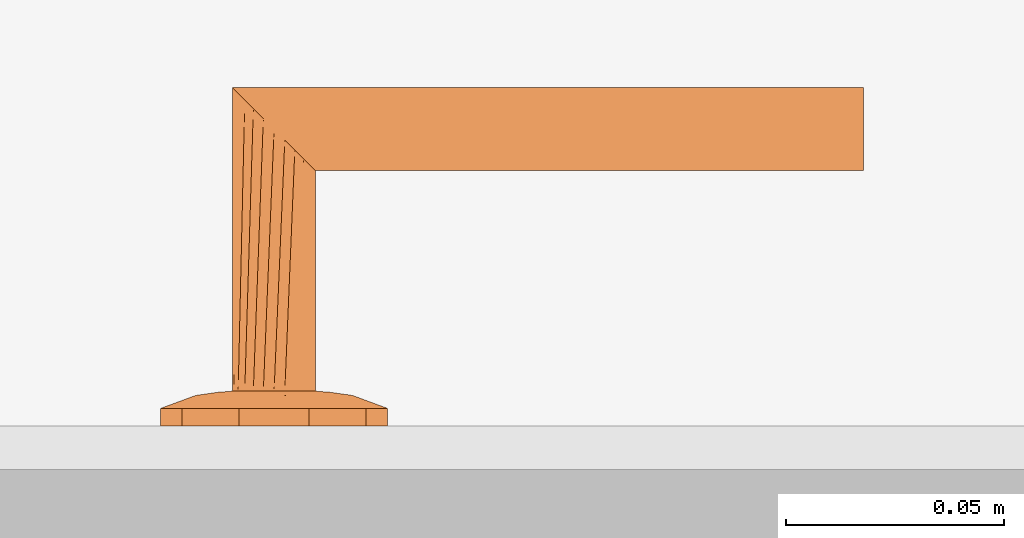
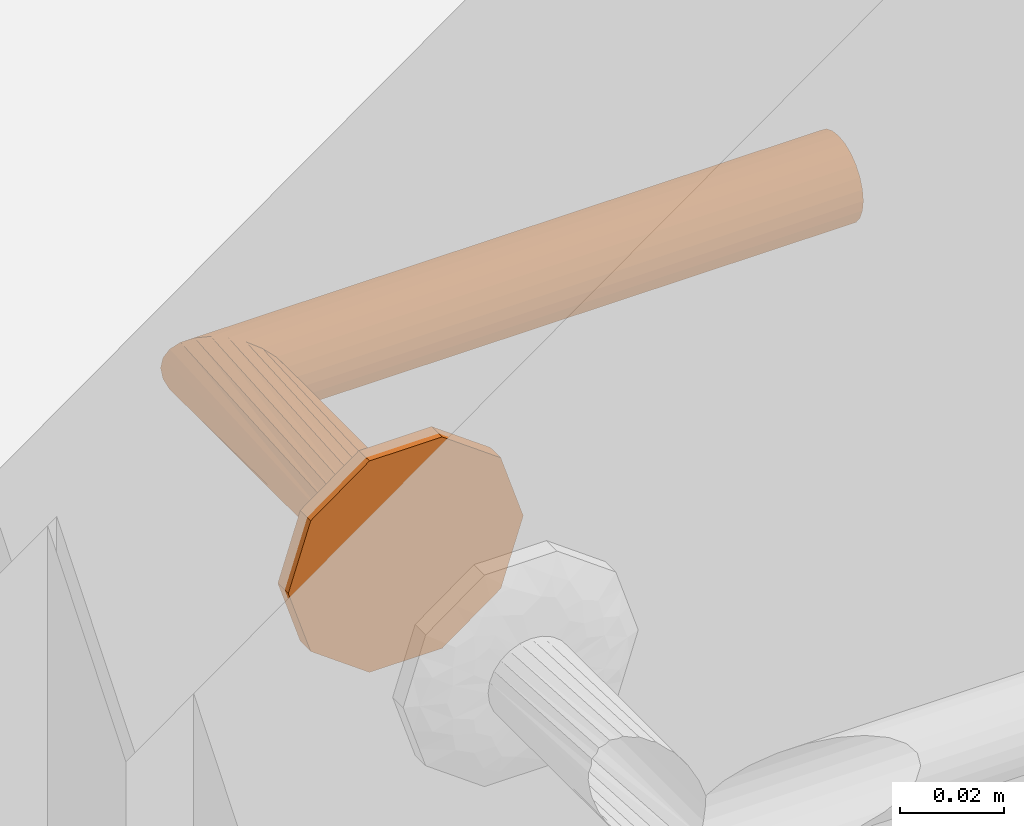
# One storey, part 34 of 55: 1 proxy.
"""IFC2X3 building model written with IfcOpenShell, lengths in millimetres."""

from ifc_helpers import new_model, entity, si_unit, converted_unit, direction, frame, origin, place, context, subcontext, project, spatial, faceted_brep, source, transform, mapped, material, type_object, type_shapes, element, save


model = new_model("IFC2X3")

# Units and contexts
model_context = context("Model", 3, precision=0.01, world=origin(), true_north=direction((6.123233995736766e-17, 1.0)))
plan_context = context("Plan", 3, precision=0.01, world=origin(), true_north=direction((6.123233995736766e-17, 1.0)))
body_context = subcontext(model_context, "Body", "Model", "MODEL_VIEW")
ifc_project = project(units=[si_unit("LENGTHUNIT", "METRE", prefix="MILLI"), converted_unit("PLANEANGLEUNIT", "DEGREE", entity("IfcPlaneAngleMeasure", 0.017453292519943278), si_unit("PLANEANGLEUNIT", "RADIAN"), dimensions=[0, 0, 0, 0, 0, 0, 0]), si_unit("AREAUNIT", "SQUARE_METRE")], contexts=[model_context, plan_context])

# Site, building, storey, space
site_placement = place(None, origin())
site = spatial("IfcSite", under=ifc_project, at=site_placement, Name="Default", CompositionType="ELEMENT")
building_placement = place(site_placement, origin())
building = spatial("IfcBuilding", under=site, at=building_placement, CompositionType="ELEMENT")
storey_placement = place(building_placement, origin())
storey = spatial("IfcBuildingStorey", under=building, at=storey_placement, Name="1K", CompositionType="ELEMENT", Elevation=0.0)
space_placement = place(storey_placement, origin())
space = spatial("IfcSpace", under=storey, at=space_placement, Name="1-0.4", CompositionType="ELEMENT", InteriorOrExteriorSpace="INTERNAL")

# Proxy
ifc_material = material(Name="<Unnamed>")
building_element_proxy_type = type_object("IfcBuildingElementProxyType", Name="Door-handle_Lever_ABLOY_INOXI_3-19ss-002_RT:Default", PredefinedType="NOTDEFINED", material=ifc_material)
shared_shape = source(origin(), body_context, "Body", "Brep", [
    faceted_brep([(0.0, 0.0, 0.0), (21.034441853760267, -15.282416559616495, 0.0), (14.534441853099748, -20.00494299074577, 0.0), (8.034441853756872, -24.72746942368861, 0.0), (0.0, -24.72746942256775, 0.0), (23.51722092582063, -7.6412082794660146, 0.0), (26.0, 0.0, 0.0), (-8.034441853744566, -24.727469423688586, 0.0), (-14.534441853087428, -20.00494299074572, 0.0), (-21.03444185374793, -15.282416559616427, 0.0), (-23.517220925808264, -7.641208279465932, 0.0), (-26.0, 0.0, 0.0), (-23.517220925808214, 7.641208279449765, 0.0), (23.517220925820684, 7.641208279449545, 0.0), (21.034441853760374, 15.282416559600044, 0.0), (14.53444185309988, 20.00494299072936, 0.0), (8.034441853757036, 24.72746942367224, 0.0), (-21.034441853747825, 15.282416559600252, 0.0), (-14.53444185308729, 20.004942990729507, 0.0), (-8.0344418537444, 24.72746942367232, 0.0), (0.0, 24.72746942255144, 0.0), (0.0, 0.0, 8.0), (4.7500000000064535, -8.227241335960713, 8.0), (5.937500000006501, -6.170431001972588, 8.0), (7.125000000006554, -4.113620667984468, 8.0), (8.312500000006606, -2.0568103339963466, 8.0), (9.500000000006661, 0.0, 8.0), (8.312500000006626, 2.056810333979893, 8.0), (2.3750000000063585, -8.227241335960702, 8.0), (0.0, -8.227241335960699, 8.0), (-2.3749999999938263, -8.227241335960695, 8.0), (-4.749999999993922, -8.227241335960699, 8.0), (-5.937499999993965, -6.170431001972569, 8.0), (-7.124999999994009, -4.113620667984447, 8.0), (-8.312499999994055, -2.056810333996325, 8.0), (-9.499999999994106, 0.0, 8.0), (7.125000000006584, 4.113620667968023, 8.0), (5.937500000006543, 6.170431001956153, 8.0), (4.750000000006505, 8.227241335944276, 8.0), (2.3750000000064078, 8.22724133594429, 8.0), (-8.31249999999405, 2.0568103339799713, 8.0), (-7.12499999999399, 4.113620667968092, 8.0), (-5.9374999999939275, 6.170431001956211, 8.0), (-4.74999999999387, 8.227241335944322, 8.0), (0.0, 8.227241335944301, 8.0), (-2.374999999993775, 8.227241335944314, 8.0), (-22.488765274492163, -10.806469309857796, 4.030771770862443), (-16.663919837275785, -7.932665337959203, 6.877259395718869), (-20.643071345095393, -6.292822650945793, 5.929480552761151), (-12.50457926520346, -5.179566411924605, 7.774932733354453), (-16.764060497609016, -3.820257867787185, 7.1747985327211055), (-9.071726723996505, -10.311606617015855, 7.7520782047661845), (-11.963426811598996, -8.625290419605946, 7.618343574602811), (-11.979136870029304, -13.678312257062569, 6.945778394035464), (5.7585542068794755, -20.96753300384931, 5.871476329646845), (0.0, -24.72746942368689, 4.030771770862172), (8.03444185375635, -24.727469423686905, 4.030771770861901), (16.66391982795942, -7.932665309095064, 6.877259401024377), (22.488765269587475, -10.806469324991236, 4.03077177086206), (20.64307133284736, -6.29282258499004, 5.929480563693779), (14.534441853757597, -20.004942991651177, 4.030771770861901), (9.499431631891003, -18.64368355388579, 6.154325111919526), (-15.783149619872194, -11.991003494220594, 6.50080018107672), (-21.034441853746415, -15.282416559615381, 4.030771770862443), (-14.53444185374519, -20.00494299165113, 4.030771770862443), (-23.012042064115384, 0.0, 5.135401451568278), (-23.943088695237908, -6.330522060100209, 4.030771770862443), (11.96342678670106, -8.62529049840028, 7.618343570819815), (12.504579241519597, -5.179566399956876, 7.774932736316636), (16.764060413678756, -3.8202578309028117, 7.17479855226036), (15.783149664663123, -11.991003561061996, 6.50080015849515), (17.985351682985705, 0.0, 6.993737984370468), (23.012042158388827, 0.0, 5.135401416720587), (8.661516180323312, -10.478936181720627, 7.768126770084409), (-8.03444185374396, -24.727469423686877, 4.030771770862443), (-3.3573143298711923, -21.197247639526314, 5.971427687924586), (-9.941915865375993, -17.061976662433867, 6.522757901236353), (-5.973257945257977, -16.430139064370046, 7.110979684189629), (-7.711266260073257, -12.760344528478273, 7.594456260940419), (11.979136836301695, -13.678312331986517, 6.945778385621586), (7.511307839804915, -13.358932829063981, 7.529187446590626), (5.953298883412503, -16.50608604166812, 7.096344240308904), (-1.5654593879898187, -15.307443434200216, 7.519134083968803), (-7.784980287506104, -20.476295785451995, 5.812837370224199), (2.8135289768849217, -17.76392260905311, 6.993737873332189), (-17.98535168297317, 0.0, 6.993737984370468), (-26.0, 0.0, 4.030771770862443), (-23.51722092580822, -7.641208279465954, 4.030771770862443), (23.943088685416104, -6.33052209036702, 4.030771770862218), (24.308823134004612, -5.204907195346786, 4.030771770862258), (26.0, 0.0, 4.030771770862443), (21.03444185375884, -15.282416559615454, 4.030771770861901), (22.617646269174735, -10.40981439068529, 4.030771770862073), (22.488765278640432, 10.806469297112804, 4.030771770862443), (16.66391984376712, 7.932665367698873, 6.877259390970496), (20.643071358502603, 6.292822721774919, 5.929480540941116), (12.504579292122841, 5.179566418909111, 7.774932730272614), (16.764060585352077, 3.8202579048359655, 7.174798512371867), (9.07172672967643, 10.31160659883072, 7.752078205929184), (11.963426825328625, 8.62529034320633, 7.618343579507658), (11.979136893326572, 13.67831220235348, 6.9457784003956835), (-5.758554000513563, 20.96753314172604, 5.8714763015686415), (0.0, 24.72746942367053, 4.030771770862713), (-8.03444185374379, 24.72746942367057, 4.030771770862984), (-16.663919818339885, 7.932665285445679, 6.877259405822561), (-22.48876526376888, 10.806469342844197, 4.030771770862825), (-20.643071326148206, 6.2928225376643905, 5.929480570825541), (-14.534441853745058, 20.004942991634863, 4.030771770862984), (-9.499431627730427, 18.643683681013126, 6.154325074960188), (15.783149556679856, 11.991003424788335, 6.5008002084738), (21.03444185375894, 15.282416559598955, 4.030771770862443), (14.534441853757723, 20.004942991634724, 4.030771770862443), (23.943088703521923, 6.330522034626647, 4.030771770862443), (-11.96342675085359, 8.625290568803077, 7.618343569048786), (-12.504579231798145, 5.179566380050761, 7.77493273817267), (-16.764060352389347, 3.820257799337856, 7.174798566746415), (-15.78314967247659, 11.991003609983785, 6.500800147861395), (-8.661516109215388, 10.478936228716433, 7.768126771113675), (8.034441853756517, 24.727469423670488, 4.030771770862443), (3.3573144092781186, 21.197247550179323, 5.971427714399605), (9.941915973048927, 17.061976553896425, 6.522757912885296), (5.9732581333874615, 16.430139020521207, 7.110979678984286), (7.711266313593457, 12.760344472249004, 7.5944562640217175), (-11.979136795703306, 13.678312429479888, 6.945778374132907), (-7.511307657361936, 13.358932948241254, 7.5291874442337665), (-5.9532988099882, 16.50608628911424, 7.096344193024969), (1.5654596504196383, 15.3074431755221, 7.519134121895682), (7.784980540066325, 20.476295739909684, 5.812837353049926), (-2.81352881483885, 17.76392263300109, 6.993737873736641), (23.51722092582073, 7.6412082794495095, 4.030771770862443), (-23.94308867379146, 6.330522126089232, 4.030771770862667), (-24.308823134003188, 5.20490719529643, 4.030771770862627), (-21.034441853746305, 15.282416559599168, 4.030771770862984), (-22.617646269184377, 10.409814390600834, 4.0307717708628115)], [[[0, 1, 2]], [[0, 2, 3]], [[0, 3, 4]], [[0, 5, 1]], [[0, 6, 5]], [[0, 4, 7]], [[0, 7, 8]], [[0, 8, 9]], [[0, 9, 10]], [[0, 10, 11]], [[0, 11, 12]], [[0, 13, 6]], [[0, 14, 13]], [[0, 15, 14]], [[0, 16, 15]], [[0, 12, 17]], [[0, 17, 18]], [[0, 18, 19]], [[0, 19, 20]], [[0, 20, 16]], [[21, 22, 23]], [[21, 23, 24]], [[21, 24, 25]], [[21, 25, 26]], [[21, 26, 27]], [[21, 28, 22]], [[21, 29, 28]], [[21, 30, 29]], [[21, 31, 30]], [[21, 32, 31]], [[21, 33, 32]], [[21, 34, 33]], [[21, 35, 34]], [[21, 27, 36]], [[21, 36, 37]], [[21, 37, 38]], [[21, 38, 39]], [[21, 40, 35]], [[21, 41, 40]], [[21, 42, 41]], [[21, 43, 42]], [[21, 39, 44]], [[21, 44, 45]], [[21, 45, 43]], [[46, 47, 48]], [[47, 49, 50]], [[49, 33, 34]], [[51, 52, 53]], [[49, 52, 33]], [[48, 47, 50]], [[54, 55, 56]], [[57, 58, 59]], [[56, 60, 61]], [[62, 63, 64]], [[65, 66, 48]], [[67, 57, 68]], [[68, 69, 25]], [[57, 67, 70]], [[69, 26, 25]], [[62, 53, 52]], [[71, 69, 72]], [[67, 23, 73]], [[74, 55, 75]], [[76, 77, 78]], [[79, 60, 70]], [[69, 59, 72]], [[80, 81, 61]], [[77, 30, 78]], [[82, 30, 77]], [[28, 80, 22]], [[77, 83, 75]], [[75, 82, 77]], [[55, 84, 75]], [[85, 50, 35]], [[24, 68, 25]], [[82, 84, 29]], [[84, 82, 75]], [[31, 78, 30]], [[82, 29, 30]], [[34, 35, 50]], [[52, 49, 47]], [[62, 52, 47]], [[34, 50, 49]], [[53, 78, 51]], [[32, 33, 52]], [[85, 65, 50]], [[66, 65, 86]], [[67, 68, 24]], [[77, 76, 83]], [[65, 48, 50]], [[63, 62, 46]], [[48, 66, 87, 46]], [[62, 47, 46]], [[69, 68, 57]], [[80, 73, 22]], [[70, 67, 79]], [[67, 24, 23]], [[72, 88, 89, 90]], [[69, 71, 26]], [[59, 69, 57]], [[61, 60, 79]], [[62, 64, 53]], [[91, 58, 70]], [[72, 59, 88]], [[57, 70, 58]], [[59, 58, 92]], [[80, 61, 79]], [[91, 70, 60]], [[61, 81, 54]], [[73, 80, 79]], [[28, 84, 81]], [[67, 73, 79]], [[29, 84, 28]], [[22, 73, 23]], [[51, 31, 32]], [[76, 78, 53]], [[53, 64, 76]], [[83, 64, 74]], [[64, 83, 76]], [[75, 83, 74]], [[31, 51, 78]], [[52, 51, 32]], [[28, 81, 80]], [[54, 81, 84]], [[55, 54, 84]], [[61, 54, 56]], [[93, 94, 95]], [[94, 96, 97]], [[96, 36, 27]], [[98, 99, 100]], [[96, 99, 36]], [[95, 94, 97]], [[101, 102, 103]], [[104, 105, 106]], [[103, 107, 108]], [[109, 110, 111]], [[72, 112, 95]], [[113, 104, 114]], [[114, 115, 40]], [[104, 113, 116]], [[115, 35, 40]], [[109, 100, 99]], [[85, 115, 65]], [[113, 42, 117]], [[118, 102, 119]], [[120, 121, 122]], [[123, 107, 116]], [[115, 106, 65]], [[124, 125, 108]], [[121, 39, 122]], [[126, 39, 121]], [[45, 124, 43]], [[121, 127, 119]], [[119, 126, 121]], [[102, 128, 119]], [[71, 97, 26]], [[41, 114, 40]], [[126, 128, 44]], [[128, 126, 119]], [[38, 122, 39]], [[126, 44, 39]], [[27, 26, 97]], [[99, 96, 94]], [[109, 99, 94]], [[27, 97, 96]], [[100, 122, 98]], [[37, 36, 99]], [[71, 72, 97]], [[112, 72, 90]], [[113, 114, 41]], [[121, 120, 127]], [[72, 95, 97]], [[110, 109, 93]], [[95, 112, 129, 93]], [[109, 94, 93]], [[115, 114, 104]], [[124, 117, 43]], [[116, 113, 123]], [[113, 41, 42]], [[65, 130, 131, 86]], [[115, 85, 35]], [[106, 115, 104]], [[108, 107, 123]], [[109, 111, 100]], [[132, 105, 116]], [[65, 106, 130]], [[104, 116, 105]], [[106, 105, 133]], [[124, 108, 123]], [[132, 116, 107]], [[108, 125, 101]], [[117, 124, 123]], [[45, 128, 125]], [[113, 117, 123]], [[44, 128, 45]], [[43, 117, 42]], [[98, 38, 37]], [[120, 122, 100]], [[100, 111, 120]], [[127, 111, 118]], [[111, 127, 120]], [[119, 127, 118]], [[38, 98, 122]], [[99, 98, 37]], [[45, 125, 124]], [[101, 125, 128]], [[102, 101, 128]], [[108, 101, 103]], [[7, 74, 64, 63, 9, 8]], [[10, 9, 63, 46, 87, 66, 86, 11]], [[6, 90, 89, 88, 92, 1, 5]], [[1, 58, 91]], [[74, 7, 4, 3, 56, 55]], [[60, 56, 3, 2, 1, 91]], [[1, 92, 58]], [[14, 110, 93, 129, 112, 90, 6, 13]], [[111, 110, 14, 15, 16, 118]], [[11, 86, 131, 130, 133, 17, 12]], [[17, 105, 132]], [[118, 16, 20, 19, 103, 102]], [[107, 103, 19, 18, 17, 132]], [[17, 133, 105]], [[59, 92, 88]], [[106, 133, 130]]]),
    faceted_brep([(4.7499999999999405, -8.22724133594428, 8.0), (2.4587809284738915, -9.176295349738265, 8.0), (0.0, -9.499999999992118, 8.0), (-2.4587809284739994, -9.176295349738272, 8.0), (-4.7500000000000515, -8.227241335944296, 8.0), (-6.717514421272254, -6.717514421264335, 8.0), (-8.227241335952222, -4.74999999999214, 8.0), (-9.176295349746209, -2.4587809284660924, 8.0), (-9.500000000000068, 0.0, 8.0), (-9.176295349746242, 2.458780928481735, 8.0), (-8.227241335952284, 4.750000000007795, 8.0), (-6.717514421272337, 6.717514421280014, 8.0), (-4.750000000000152, 8.227241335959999, 8.0), (-2.4587809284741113, 9.176295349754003, 8.0), (0.0, 9.500000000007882, 8.0), (2.4587809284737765, 9.176295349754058, 8.0), (4.7499999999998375, 8.227241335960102, 8.0), (6.717514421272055, 6.717514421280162, 8.0), (8.22724133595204, 4.75000000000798, 8.0), (9.17629534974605, 2.458780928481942, 8.0), (9.499999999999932, 0.0, 8.0), (9.17629534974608, -2.458780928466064, 8.0), (8.227241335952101, -4.749999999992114, 8.0), (6.717514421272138, -6.7175144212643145, 8.0), (-8.227241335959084, 4.7499999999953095, 59.772758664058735), (-6.717514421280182, 6.7175144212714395, 61.282485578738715), (-9.176295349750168, 2.458780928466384, 58.82370465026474), (-4.750000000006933, 8.227241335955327, 63.25000000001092), (-2.4587809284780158, 9.176295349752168, 65.54121907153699), (-9.500000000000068, 0.0, 58.50000000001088), (0.0, 9.50000000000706, 68.0), (4.750000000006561, 8.227241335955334, 72.75000000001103), (2.4587809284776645, 9.17629534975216, 70.45878092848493), (6.717514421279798, 6.7175144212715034, 74.71751442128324), (8.22724133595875, 4.749999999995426, 76.22724133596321), (9.17629534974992, 2.458780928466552, 77.17629534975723), (9.499999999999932, 0.0, 77.50000000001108), (9.176295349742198, -2.4587809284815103, 77.1762953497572), (8.227241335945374, -4.750000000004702, 76.22724133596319), (6.7175144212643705, -6.717514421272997, 74.7175144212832), (4.749999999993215, -8.227241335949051, 72.75000000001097), (2.4587809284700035, -9.17629534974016, 70.45878092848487), (0.0, -9.49999999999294, 68.0), (-2.4587809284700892, -9.176295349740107, 65.54121907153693), (-4.749999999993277, -8.227241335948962, 63.250000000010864), (-6.717514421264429, -6.717514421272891, 61.282485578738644), (-9.176295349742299, -2.458780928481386, 58.8237046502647), (-8.227241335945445, -4.750000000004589, 59.77275866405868), (-135.0, -9.176295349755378, 70.4587809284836), (-135.0, -8.227241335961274, 72.75000000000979), (-135.0, -6.717514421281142, 74.71751442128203), (-135.0, -4.750000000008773, 76.22724133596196), (-135.0, -2.4587809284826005, 77.17629534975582), (-135.0, 0.0, 77.5000000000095), (-135.0, 2.4587809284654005, 77.17629534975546), (-135.0, 4.749999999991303, 76.22724133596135), (-135.0, 6.717514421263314, 74.71751442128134), (-135.0, 8.227241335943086, 72.75000000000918), (-135.0, 9.17629534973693, 70.45878092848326), (-135.0, 9.499999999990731, 68.0), (-135.0, 9.17629534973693, 65.54121907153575), (-135.0, 8.227241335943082, 63.250000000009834), (-135.0, 6.717514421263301, 61.28248557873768), (-135.0, 4.749999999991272, 59.772758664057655), (-135.0, 2.458780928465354, 58.823704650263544), (-135.0, 0.0, 58.50000000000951), (-135.0, -2.458780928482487, 58.82370465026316), (-135.0, -4.750000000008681, 59.772758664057), (-135.0, -6.7175144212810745, 61.28248557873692), (-135.0, -8.227241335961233, 63.25000000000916), (-135.0, -9.176295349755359, 65.54121907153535), (-135.0, -9.500000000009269, 68.0)], [[[0, 1, 2, 3, 4, 5, 6, 7, 8, 9, 10, 11, 12, 13, 14, 15, 16, 17, 18, 19, 20, 21, 22, 23]], [[24, 25, 11, 10]], [[26, 24, 10, 9]], [[14, 27, 28]], [[13, 27, 14]], [[25, 27, 13]], [[29, 26, 9, 8]], [[12, 11, 25]], [[25, 13, 12]], [[28, 30, 15]], [[31, 17, 32]], [[33, 18, 31]], [[19, 34, 35]], [[33, 34, 19]], [[20, 19, 35, 36]], [[16, 15, 30]], [[14, 28, 15]], [[19, 18, 33]], [[17, 31, 18]], [[17, 16, 32]], [[30, 32, 16]], [[20, 36, 37, 21]], [[38, 21, 37]], [[22, 39, 40]], [[38, 39, 21]], [[23, 40, 41]], [[39, 22, 21]], [[1, 42, 43]], [[42, 1, 0]], [[23, 41, 0]], [[23, 22, 40]], [[41, 42, 0]], [[44, 45, 3]], [[43, 44, 2]], [[46, 29, 8, 7]], [[47, 46, 7, 6]], [[45, 47, 6, 5]], [[45, 4, 3]], [[3, 2, 44]], [[5, 4, 45]], [[43, 2, 1]], [[48, 49, 50, 51, 52, 53, 54, 55, 56, 57, 58, 59, 60, 61, 62, 63, 64, 65, 66, 67, 68, 69, 70, 71]], [[64, 63, 24, 26]], [[65, 64, 26, 29]], [[61, 60, 28, 27]], [[62, 61, 27, 25]], [[63, 62, 25, 24]], [[59, 30, 28, 60]], [[57, 56, 33, 31]], [[58, 57, 31, 32]], [[54, 53, 36, 35]], [[55, 54, 35, 34]], [[56, 55, 34, 33]], [[32, 30, 59, 58]], [[52, 51, 38, 37]], [[53, 52, 37, 36]], [[49, 48, 41, 40]], [[50, 49, 40, 39]], [[51, 50, 39, 38]], [[42, 41, 48, 71]], [[69, 68, 45, 44]], [[70, 69, 44, 43]], [[66, 65, 29, 46]], [[67, 66, 46, 47]], [[68, 67, 47, 45]], [[42, 71, 70, 43]]]),
])
type_shapes(building_element_proxy_type, [shared_shape])
proxy_placement = place(space_placement, frame((7510.0, 4310.0, 1000.0), z_axis=(0.0, 1.0, 0.0), x_axis=(-1.0, 0.0, 0.0)))
element("IfcBuildingElementProxy", 1, at=proxy_placement, inside=space, type_object=building_element_proxy_type, material=ifc_material, Name="Door-handle_Lever_ABLOY_INOXI_3-19ss-002_RT:Default", ObjectType="Door-handle_Lever_ABLOY_INOXI_3-19ss-002_RT:Default", context=body_context, shape_type="MappedRepresentation", body=[
    mapped(shared_shape, transform((0.0, 0.0, 0.0), scale=1.0)),
])

save(model, "model.ifc")
